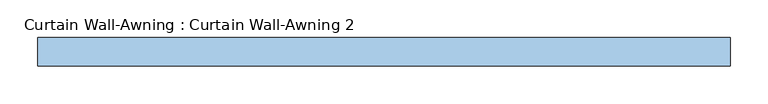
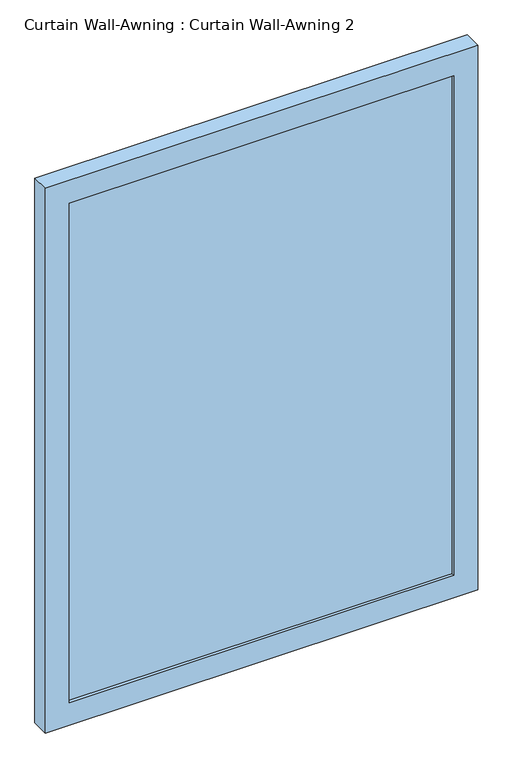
"""IFC4 building model written with IfcOpenShell, lengths in millimetres: window geometry, Curtain Wall-Awning : Curtain Wall-Awning 2."""

from ifc_helpers import new_model, si_unit, frame, origin, place, context, project, spatial, polyline, outline, extrude, source, transform, mapped, element, save


def curtain_wall_awning_curtain_wall_awning_2_efb4c519(model_context):
    return source(origin(), model_context, "Body", "SweptSolid", [
        extrude(outline(polyline([(409.575, 19.05), (409.575, 6.35), (-409.575, 6.35), (-409.575, 19.05), (409.575, 19.05)])), frame((0.0, 0.0, 50.8), z_axis=(0.0, 0.0, 1.0), x_axis=(1.0, 0.0, 0.0)), (0.0, 0.0, 1.0), 1124.7800169),
        extrude(outline(polyline([(1226.3800169, -460.375), (0.0, -460.375), (0.0, 460.375), (1226.3800169, 460.375), (1226.3800169, -460.375)]), holes=[polyline([(1175.5800169, -409.575), (1175.5800169, 409.575), (50.8, 409.575), (50.8, -409.575), (1175.5800169, -409.575)])]), frame((0.0, 0.0, 0.0), z_axis=(0.0, 1.0, 0.0), x_axis=(0.0, 0.0, 1.0)), (0.0, 0.0, 1.0), 38.1),
    ])


if __name__ == "__main__":
    model = new_model("IFC4")
    model_context = context("Model", 3, world=origin())
    ifc_project = project(units=[si_unit("LENGTHUNIT", "METRE", prefix="MILLI")], contexts=[model_context])
    site = spatial("IfcSite", under=ifc_project)
    building = spatial("IfcBuilding", under=site)
    placement = place(None, origin())
    curtain_wall_awning_curtain_wall_awning_2_shape = curtain_wall_awning_curtain_wall_awning_2_efb4c519(model_context)
    element("IfcWindow", 1, ObjectType="Curtain Wall-Awning : Curtain Wall-Awning 2", at=placement, inside=building, context=model_context, shape_type="MappedRepresentation", body=[
        mapped(curtain_wall_awning_curtain_wall_awning_2_shape, transform((0.0, 0.0, 0.0), x_axis=(1.0, 0.0, 0.0), y_axis=(0.0, 1.0, 0.0), z_axis=(0.0, 0.0, 1.0))),
    ])
    save(model, "model.ifc")
